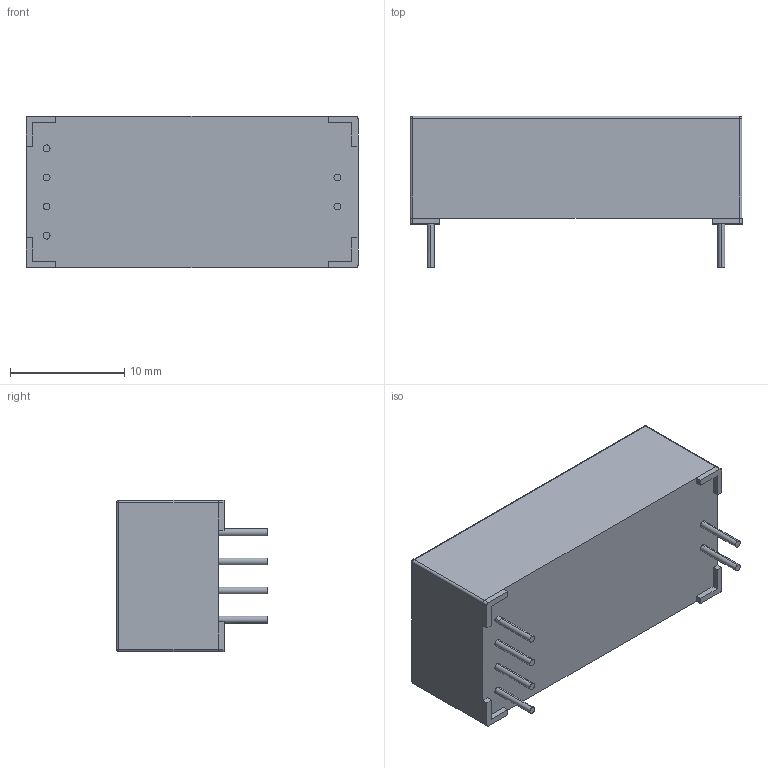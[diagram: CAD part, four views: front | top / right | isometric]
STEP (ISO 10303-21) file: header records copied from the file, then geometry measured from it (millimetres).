
FILE_DESCRIPTION (( 'STEP AP203' ), '1' );
FILE_NAME ('89-2-A.STEP', '2010-06-29T13:54:42', ( ' ' ), ( '' ), 'SwSTEP 2.0', 'SolidWorks 2009', '' );
FILE_SCHEMA (( 'CONFIG_CONTROL_DESIGN' ));
Length unit declared in the file: millimetre
Products named in the file (1): 89-2-A
Bounding box: 29 x 13.2 x 13.2 mm (x, y, z)
Volume: 3413.2 mm3; surface area: 1574.9 mm2
Topology: 1 solids, 1 shells, 725 faces, 1914 edges, 1264 vertices
Faces by surface type: plane 445, bspline 252, cylinder 24, sphere 4
Entity records: 35569 total; most frequent: CARTESIAN_POINT 19248, ORIENTED_EDGE 3820, DIRECTION 2402, EDGE_CURVE 1910, VECTOR 1358, LINE 1358, VERTEX_POINT 1264, EDGE_LOOP 802
